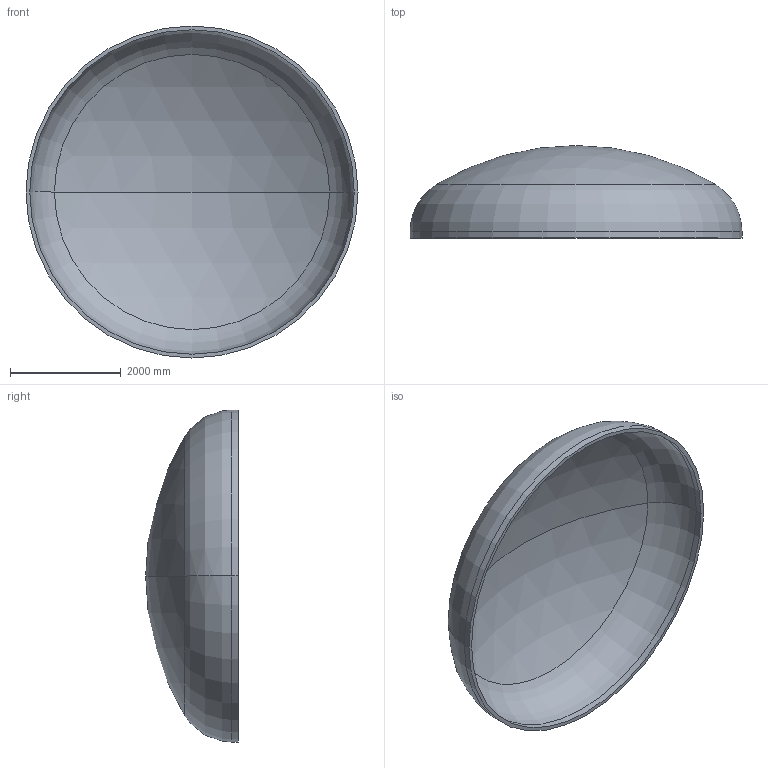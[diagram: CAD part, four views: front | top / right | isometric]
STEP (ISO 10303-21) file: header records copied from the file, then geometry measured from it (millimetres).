
FILE_DESCRIPTION (( 'STEP AP203' ), '1' );
FILE_NAME ('DIN 28013 Korbbogenform_-_Boden DIN 28013 - 6000 x 120 - I - s=68.step', '2016-07-04T10:37:53', ( '' ), ( '' ), 'SwSTEP 2.0', 'SolidWorks 2013', '' );
FILE_SCHEMA (( 'CONFIG_CONTROL_DESIGN' ));
Length unit declared in the file: millimetre
Products named in the file (1): DIN 28013 Korbbogenform_-_Boden DIN 28013 - 6000 x 120 - I - s=68
Bounding box: 6000 x 1673.25 x 6000 mm (x, y, z)
Volume: 2775866320.8 mm3; surface area: 82920023.8 mm2
Topology: 1 solids, 1 shells, 13 faces, 24 edges, 14 vertices
Faces by surface type: torus 4, cylinder 4, sphere 4, plane 1
Entity records: 407 total; most frequent: DIRECTION 72, CARTESIAN_POINT 52, ORIENTED_EDGE 48, AXIS2_PLACEMENT_3D 34, EDGE_CURVE 24, CIRCLE 20, VERTEX_POINT 14, EDGE_LOOP 14
